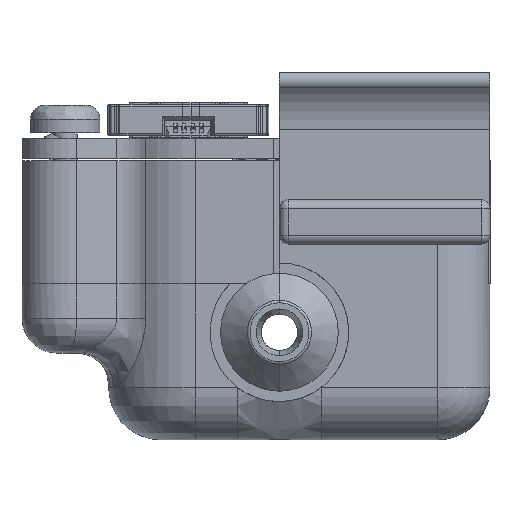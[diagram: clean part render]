
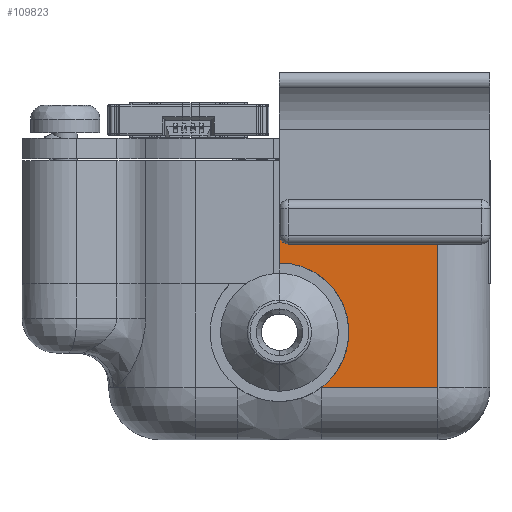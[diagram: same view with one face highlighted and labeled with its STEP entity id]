
A CAD part, front view. The second image highlights one B-rep face of the part: STEP entity #109823.
In plain terms, the highlighted planar face has unit normal (0, -1, 0).
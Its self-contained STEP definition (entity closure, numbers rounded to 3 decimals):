
#96441 = PLANE('',#96442);
#96442 = AXIS2_PLACEMENT_3D('',#96443,#96444,#96445);
#96443 = CARTESIAN_POINT('',(0.,4.75,11.7));
#96444 = DIRECTION('',(1.,0.,0.));
#96445 = DIRECTION('',(0.,0.,-1.));
#96666 = CYLINDRICAL_SURFACE('',#96667,3.);
#96667 = AXIS2_PLACEMENT_3D('',#96668,#96669,#96670);
#96668 = CARTESIAN_POINT('',(9.15,11.55,11.7));
#96669 = DIRECTION('',(0.,0.,1.));
#96670 = DIRECTION('',(1.,0.,-0.));
#103091 = VERTEX_POINT('',#103092);
#103092 = CARTESIAN_POINT('',(0.,8.55,4.));
#103106 = CYLINDRICAL_SURFACE('',#103107,4.);
#103107 = AXIS2_PLACEMENT_3D('',#103108,#103109,#103110);
#103108 = CARTESIAN_POINT('',(0.,0.,0.));
#103109 = DIRECTION('',(-0.,-1.,-0.));
#103110 = DIRECTION('',(0.,0.,-1.));
#103118 = EDGE_CURVE('',#103119,#103091,#103121,.T.);
#103119 = VERTEX_POINT('',#103120);
#103120 = CARTESIAN_POINT('',(0.,8.55,5.59));
#103121 = SURFACE_CURVE('',#103122,(#103126,#103133),.PCURVE_S1.);
#103122 = LINE('',#103123,#103124);
#103123 = CARTESIAN_POINT('',(0.,8.55,2.8));
#103124 = VECTOR('',#103125,1.);
#103125 = DIRECTION('',(0.,0.,-1.));
#103126 = PCURVE('',#96441,#103127);
#103127 = DEFINITIONAL_REPRESENTATION('',(#103128),#103132);
#103128 = LINE('',#103129,#103130);
#103129 = CARTESIAN_POINT('',(8.9,3.8));
#103130 = VECTOR('',#103131,1.);
#103131 = DIRECTION('',(1.,0.));
#103132 = ( GEOMETRIC_REPRESENTATION_CONTEXT(2) 
PARAMETRIC_REPRESENTATION_CONTEXT() REPRESENTATION_CONTEXT('2D SPACE',''
  ) );
#103133 = PCURVE('',#103134,#103139);
#103134 = PLANE('',#103135);
#103135 = AXIS2_PLACEMENT_3D('',#103136,#103137,#103138);
#103136 = CARTESIAN_POINT('',(-4.853,8.55,2.8));
#103137 = DIRECTION('',(0.,1.,0.));
#103138 = DIRECTION('',(0.,-0.,1.));
#103139 = DEFINITIONAL_REPRESENTATION('',(#103140),#103144);
#103140 = LINE('',#103141,#103142);
#103141 = CARTESIAN_POINT('',(0.,4.853));
#103142 = VECTOR('',#103143,1.);
#103143 = DIRECTION('',(-1.,0.));
#103144 = ( GEOMETRIC_REPRESENTATION_CONTEXT(2) 
PARAMETRIC_REPRESENTATION_CONTEXT() REPRESENTATION_CONTEXT('2D SPACE',''
  ) );
#103162 = CYLINDRICAL_SURFACE('',#103163,0.5);
#103163 = AXIS2_PLACEMENT_3D('',#103164,#103165,#103166);
#103164 = CARTESIAN_POINT('',(0.5,8.55,5.59));
#103165 = DIRECTION('',(0.,1.,0.));
#103166 = DIRECTION('',(0.,0.,1.));
#103705 = VERTEX_POINT('',#103706);
#103706 = CARTESIAN_POINT('',(9.15,8.55,5.09));
#103723 = PLANE('',#103724);
#103724 = AXIS2_PLACEMENT_3D('',#103725,#103726,#103727);
#103725 = CARTESIAN_POINT('',(12.15,8.55,5.09));
#103726 = DIRECTION('',(0.,0.,1.));
#103727 = DIRECTION('',(0.,-1.,0.));
#103735 = EDGE_CURVE('',#103736,#103705,#103738,.T.);
#103736 = VERTEX_POINT('',#103737);
#103737 = CARTESIAN_POINT('',(9.15,8.55,-3.2));
#103738 = SURFACE_CURVE('',#103739,(#103743,#103750),.PCURVE_S1.);
#103739 = LINE('',#103740,#103741);
#103740 = CARTESIAN_POINT('',(9.15,8.55,5.59));
#103741 = VECTOR('',#103742,1.);
#103742 = DIRECTION('',(0.,0.,1.));
#103743 = PCURVE('',#96666,#103744);
#103744 = DEFINITIONAL_REPRESENTATION('',(#103745),#103749);
#103745 = LINE('',#103746,#103747);
#103746 = CARTESIAN_POINT('',(4.712,-6.11));
#103747 = VECTOR('',#103748,1.);
#103748 = DIRECTION('',(0.,1.));
#103749 = ( GEOMETRIC_REPRESENTATION_CONTEXT(2) 
PARAMETRIC_REPRESENTATION_CONTEXT() REPRESENTATION_CONTEXT('2D SPACE',''
  ) );
#103750 = PCURVE('',#103134,#103751);
#103751 = DEFINITIONAL_REPRESENTATION('',(#103752),#103756);
#103752 = LINE('',#103753,#103754);
#103753 = CARTESIAN_POINT('',(2.79,14.003));
#103754 = VECTOR('',#103755,1.);
#103755 = DIRECTION('',(1.,0.));
#103756 = ( GEOMETRIC_REPRESENTATION_CONTEXT(2) 
PARAMETRIC_REPRESENTATION_CONTEXT() REPRESENTATION_CONTEXT('2D SPACE',''
  ) );
#107761 = CYLINDRICAL_SURFACE('',#107762,3.);
#107762 = AXIS2_PLACEMENT_3D('',#107763,#107764,#107765);
#107763 = CARTESIAN_POINT('',(-4.853,11.55,-3.2));
#107764 = DIRECTION('',(1.,0.,0.));
#107765 = DIRECTION('',(0.,0.,-1.));
#109755 = VERTEX_POINT('',#109756);
#109756 = CARTESIAN_POINT('',(2.4,8.55,-3.2));
#109800 = EDGE_CURVE('',#103091,#109755,#109801,.T.);
#109801 = SURFACE_CURVE('',#109802,(#109807,#109814),.PCURVE_S1.);
#109802 = CIRCLE('',#109803,4.);
#109803 = AXIS2_PLACEMENT_3D('',#109804,#109805,#109806);
#109804 = CARTESIAN_POINT('',(0.,8.55,0.));
#109805 = DIRECTION('',(0.,1.,0.));
#109806 = DIRECTION('',(0.,-0.,1.));
#109807 = PCURVE('',#103106,#109808);
#109808 = DEFINITIONAL_REPRESENTATION('',(#109809),#109813);
#109809 = LINE('',#109810,#109811);
#109810 = CARTESIAN_POINT('',(3.142,-8.55));
#109811 = VECTOR('',#109812,1.);
#109812 = DIRECTION('',(-1.,0.));
#109813 = ( GEOMETRIC_REPRESENTATION_CONTEXT(2) 
PARAMETRIC_REPRESENTATION_CONTEXT() REPRESENTATION_CONTEXT('2D SPACE',''
  ) );
#109814 = PCURVE('',#103134,#109815);
#109815 = DEFINITIONAL_REPRESENTATION('',(#109816),#109820);
#109816 = CIRCLE('',#109817,4.);
#109817 = AXIS2_PLACEMENT_2D('',#109818,#109819);
#109818 = CARTESIAN_POINT('',(-2.8,4.853));
#109819 = DIRECTION('',(1.,0.));
#109820 = ( GEOMETRIC_REPRESENTATION_CONTEXT(2) 
PARAMETRIC_REPRESENTATION_CONTEXT() REPRESENTATION_CONTEXT('2D SPACE',''
  ) );
#109823 = ADVANCED_FACE('',(#109824),#103134,.F.);
#109824 = FACE_BOUND('',#109825,.T.);
#109825 = EDGE_LOOP('',(#109826,#109847,#109848,#109871,#109893,#109894)
  );
#109826 = ORIENTED_EDGE('',*,*,#109827,.T.);
#109827 = EDGE_CURVE('',#109755,#103736,#109828,.T.);
#109828 = SURFACE_CURVE('',#109829,(#109833,#109840),.PCURVE_S1.);
#109829 = LINE('',#109830,#109831);
#109830 = CARTESIAN_POINT('',(12.15,8.55,-3.2));
#109831 = VECTOR('',#109832,1.);
#109832 = DIRECTION('',(1.,0.,0.));
#109833 = PCURVE('',#103134,#109834);
#109834 = DEFINITIONAL_REPRESENTATION('',(#109835),#109839);
#109835 = LINE('',#109836,#109837);
#109836 = CARTESIAN_POINT('',(-6.,17.003));
#109837 = VECTOR('',#109838,1.);
#109838 = DIRECTION('',(0.,1.));
#109839 = ( GEOMETRIC_REPRESENTATION_CONTEXT(2) 
PARAMETRIC_REPRESENTATION_CONTEXT() REPRESENTATION_CONTEXT('2D SPACE',''
  ) );
#109840 = PCURVE('',#107761,#109841);
#109841 = DEFINITIONAL_REPRESENTATION('',(#109842),#109846);
#109842 = LINE('',#109843,#109844);
#109843 = CARTESIAN_POINT('',(4.712,17.003));
#109844 = VECTOR('',#109845,1.);
#109845 = DIRECTION('',(0.,1.));
#109846 = ( GEOMETRIC_REPRESENTATION_CONTEXT(2) 
PARAMETRIC_REPRESENTATION_CONTEXT() REPRESENTATION_CONTEXT('2D SPACE',''
  ) );
#109847 = ORIENTED_EDGE('',*,*,#103735,.T.);
#109848 = ORIENTED_EDGE('',*,*,#109849,.T.);
#109849 = EDGE_CURVE('',#103705,#109850,#109852,.T.);
#109850 = VERTEX_POINT('',#109851);
#109851 = CARTESIAN_POINT('',(0.5,8.55,5.09));
#109852 = SURFACE_CURVE('',#109853,(#109857,#109864),.PCURVE_S1.);
#109853 = LINE('',#109854,#109855);
#109854 = CARTESIAN_POINT('',(12.15,8.55,5.09));
#109855 = VECTOR('',#109856,1.);
#109856 = DIRECTION('',(-1.,-0.,-0.));
#109857 = PCURVE('',#103134,#109858);
#109858 = DEFINITIONAL_REPRESENTATION('',(#109859),#109863);
#109859 = LINE('',#109860,#109861);
#109860 = CARTESIAN_POINT('',(2.29,17.003));
#109861 = VECTOR('',#109862,1.);
#109862 = DIRECTION('',(0.,-1.));
#109863 = ( GEOMETRIC_REPRESENTATION_CONTEXT(2) 
PARAMETRIC_REPRESENTATION_CONTEXT() REPRESENTATION_CONTEXT('2D SPACE',''
  ) );
#109864 = PCURVE('',#103723,#109865);
#109865 = DEFINITIONAL_REPRESENTATION('',(#109866),#109870);
#109866 = LINE('',#109867,#109868);
#109867 = CARTESIAN_POINT('',(0.,0.));
#109868 = VECTOR('',#109869,1.);
#109869 = DIRECTION('',(0.,-1.));
#109870 = ( GEOMETRIC_REPRESENTATION_CONTEXT(2) 
PARAMETRIC_REPRESENTATION_CONTEXT() REPRESENTATION_CONTEXT('2D SPACE',''
  ) );
#109871 = ORIENTED_EDGE('',*,*,#109872,.T.);
#109872 = EDGE_CURVE('',#109850,#103119,#109873,.T.);
#109873 = SURFACE_CURVE('',#109874,(#109879,#109886),.PCURVE_S1.);
#109874 = CIRCLE('',#109875,0.5);
#109875 = AXIS2_PLACEMENT_3D('',#109876,#109877,#109878);
#109876 = CARTESIAN_POINT('',(0.5,8.55,5.59));
#109877 = DIRECTION('',(0.,1.,0.));
#109878 = DIRECTION('',(0.,-0.,1.));
#109879 = PCURVE('',#103134,#109880);
#109880 = DEFINITIONAL_REPRESENTATION('',(#109881),#109885);
#109881 = CIRCLE('',#109882,0.5);
#109882 = AXIS2_PLACEMENT_2D('',#109883,#109884);
#109883 = CARTESIAN_POINT('',(2.79,5.353));
#109884 = DIRECTION('',(1.,0.));
#109885 = ( GEOMETRIC_REPRESENTATION_CONTEXT(2) 
PARAMETRIC_REPRESENTATION_CONTEXT() REPRESENTATION_CONTEXT('2D SPACE',''
  ) );
#109886 = PCURVE('',#103162,#109887);
#109887 = DEFINITIONAL_REPRESENTATION('',(#109888),#109892);
#109888 = LINE('',#109889,#109890);
#109889 = CARTESIAN_POINT('',(0.,0.));
#109890 = VECTOR('',#109891,1.);
#109891 = DIRECTION('',(1.,0.));
#109892 = ( GEOMETRIC_REPRESENTATION_CONTEXT(2) 
PARAMETRIC_REPRESENTATION_CONTEXT() REPRESENTATION_CONTEXT('2D SPACE',''
  ) );
#109893 = ORIENTED_EDGE('',*,*,#103118,.T.);
#109894 = ORIENTED_EDGE('',*,*,#109800,.T.);
